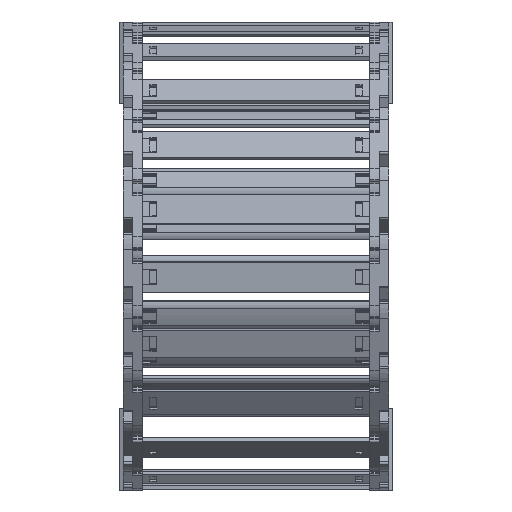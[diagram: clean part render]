
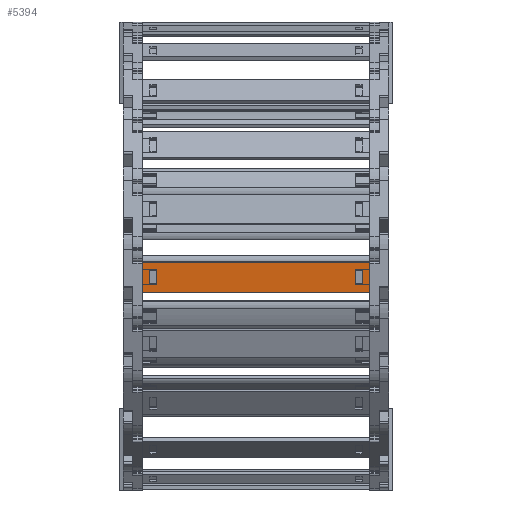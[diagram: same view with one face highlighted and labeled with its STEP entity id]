
A CAD part, left-side view. The second image highlights one B-rep face of the part: STEP entity #5394.
In plain terms, the highlighted planar face has unit normal (-0.996, 0, -0.087) as drawn and (0, 1, 0) by its records, which use the part's own axes.
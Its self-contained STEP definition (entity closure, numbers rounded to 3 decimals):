
#4814=DIRECTION('',(0.,0.,1.));
#4815=VECTOR('',#4814,15.8);
#4816=CARTESIAN_POINT('',(105.74,1.5,-7.9));
#4817=LINE('',#4816,#4815);
#4818=DIRECTION('',(-1.,0.,0.));
#4819=VECTOR('',#4818,120.5);
#4820=CARTESIAN_POINT('',(105.74,1.5,7.9));
#4821=LINE('',#4820,#4819);
#4822=DIRECTION('',(0.,0.,-1.));
#4823=VECTOR('',#4822,15.8);
#4824=CARTESIAN_POINT('',(-14.76,1.5,7.9));
#4825=LINE('',#4824,#4823);
#4826=DIRECTION('',(1.,0.,0.));
#4827=VECTOR('',#4826,3.648);
#4828=CARTESIAN_POINT('',(98.122,1.5,4.075));
#4829=LINE('',#4828,#4827);
#4830=DIRECTION('',(0.,0.,-1.));
#4831=VECTOR('',#4830,8.15);
#4832=CARTESIAN_POINT('',(101.77,1.5,4.075));
#4833=LINE('',#4832,#4831);
#4834=DIRECTION('',(-1.,0.,0.));
#4835=VECTOR('',#4834,3.648);
#4836=CARTESIAN_POINT('',(101.77,1.5,-4.075));
#4837=LINE('',#4836,#4835);
#4838=DIRECTION('',(0.,0.,-1.));
#4839=VECTOR('',#4838,8.15);
#4840=CARTESIAN_POINT('',(-7.142,1.5,4.075));
#4841=LINE('',#4840,#4839);
#4842=DIRECTION('',(-1.,0.,0.));
#4843=VECTOR('',#4842,3.648);
#4844=CARTESIAN_POINT('',(-7.142,1.5,-4.075));
#4845=LINE('',#4844,#4843);
#4846=DIRECTION('',(0.,0.,1.));
#4847=VECTOR('',#4846,8.15);
#4848=CARTESIAN_POINT('',(-10.79,1.5,-4.075));
#4849=LINE('',#4848,#4847);
#4850=DIRECTION('',(1.,0.,0.));
#4851=VECTOR('',#4850,3.648);
#4852=CARTESIAN_POINT('',(-10.79,1.5,4.075));
#4853=LINE('',#4852,#4851);
#4858=DIRECTION('',(-1.,0.,0.));
#4859=VECTOR('',#4858,120.5);
#4860=CARTESIAN_POINT('',(105.74,1.5,-7.9));
#4861=LINE('',#4860,#4859);
#4979=DIRECTION('',(0.,0.,-1.));
#4980=VECTOR('',#4979,8.15);
#4981=CARTESIAN_POINT('',(98.122,1.5,4.075));
#4982=LINE('',#4981,#4980);
#5164=CARTESIAN_POINT('',(101.77,1.5,4.075));
#5165=VERTEX_POINT('',#5164);
#5166=CARTESIAN_POINT('',(98.122,1.5,4.075));
#5167=VERTEX_POINT('',#5166);
#5208=CARTESIAN_POINT('',(98.122,1.5,-4.075));
#5209=VERTEX_POINT('',#5208);
#5210=CARTESIAN_POINT('',(101.77,1.5,-4.075));
#5211=VERTEX_POINT('',#5210);
#5212=CARTESIAN_POINT('',(105.74,1.5,7.9));
#5214=VERTEX_POINT('',#5212);
#5216=CARTESIAN_POINT('',(105.74,1.5,-7.9));
#5217=VERTEX_POINT('',#5216);
#5240=CARTESIAN_POINT('',(-7.142,1.5,4.075));
#5241=CARTESIAN_POINT('',(-7.142,1.5,-4.075));
#5242=VERTEX_POINT('',#5240);
#5243=VERTEX_POINT('',#5241);
#5244=CARTESIAN_POINT('',(-10.79,1.5,-4.075));
#5245=VERTEX_POINT('',#5244);
#5246=CARTESIAN_POINT('',(-10.79,1.5,4.075));
#5247=VERTEX_POINT('',#5246);
#5248=CARTESIAN_POINT('',(-14.76,1.5,7.9));
#5249=VERTEX_POINT('',#5248);
#5252=CARTESIAN_POINT('',(-14.76,1.5,-7.9));
#5253=VERTEX_POINT('',#5252);
#5363=CARTESIAN_POINT('',(137.48,1.5,10.061));
#5364=DIRECTION('',(0.,-1.,0.));
#5365=DIRECTION('',(0.,0.,-1.));
#5366=AXIS2_PLACEMENT_3D('',#5363,#5364,#5365);
#5367=PLANE('',#5366);
#5368=ORIENTED_EDGE('',*,*,#5302,.T.);
#5369=ORIENTED_EDGE('',*,*,#5328,.T.);
#5370=ORIENTED_EDGE('',*,*,#5341,.T.);
#5372=ORIENTED_EDGE('',*,*,#5371,.F.);
#5373=EDGE_LOOP('',(#5368,#5369,#5370,#5372));
#5374=FACE_OUTER_BOUND('',#5373,.F.);
#5376=ORIENTED_EDGE('',*,*,#5375,.F.);
#5377=ORIENTED_EDGE('',*,*,#5265,.T.);
#5379=ORIENTED_EDGE('',*,*,#5378,.T.);
#5381=ORIENTED_EDGE('',*,*,#5380,.T.);
#5382=EDGE_LOOP('',(#5376,#5377,#5379,#5381));
#5383=FACE_BOUND('',#5382,.F.);
#5385=ORIENTED_EDGE('',*,*,#5384,.T.);
#5387=ORIENTED_EDGE('',*,*,#5386,.T.);
#5389=ORIENTED_EDGE('',*,*,#5388,.T.);
#5391=ORIENTED_EDGE('',*,*,#5390,.T.);
#5392=EDGE_LOOP('',(#5385,#5387,#5389,#5391));
#5393=FACE_BOUND('',#5392,.F.);
#5394=ADVANCED_FACE('',(#5374,#5383,#5393),#5367,.F.);
#5265=EDGE_CURVE('',#5167,#5165,#4829,.T.);
#5302=EDGE_CURVE('',#5217,#5214,#4817,.T.);
#5328=EDGE_CURVE('',#5214,#5249,#4821,.T.);
#5341=EDGE_CURVE('',#5249,#5253,#4825,.T.);
#5371=EDGE_CURVE('',#5217,#5253,#4861,.T.);
#5375=EDGE_CURVE('',#5167,#5209,#4982,.T.);
#5378=EDGE_CURVE('',#5165,#5211,#4833,.T.);
#5380=EDGE_CURVE('',#5211,#5209,#4837,.T.);
#5384=EDGE_CURVE('',#5242,#5243,#4841,.T.);
#5386=EDGE_CURVE('',#5243,#5245,#4845,.T.);
#5388=EDGE_CURVE('',#5245,#5247,#4849,.T.);
#5390=EDGE_CURVE('',#5247,#5242,#4853,.T.);
